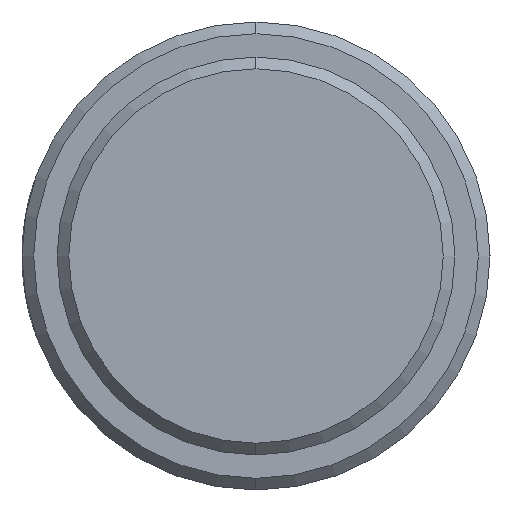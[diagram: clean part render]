
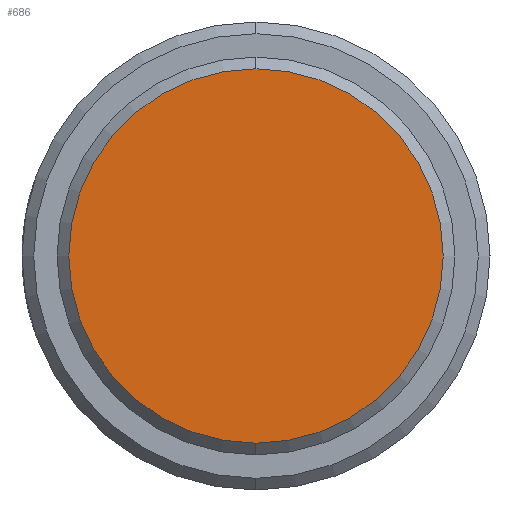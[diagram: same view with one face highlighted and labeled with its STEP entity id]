
A CAD part, left-side view. The second image highlights one B-rep face of the part: STEP entity #686.
In plain terms, the highlighted planar face has unit normal (-1, 0, 0).
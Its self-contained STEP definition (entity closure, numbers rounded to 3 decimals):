
#9 = ORIENTED_EDGE ( 'NONE', *, *, #917, .F. ) ;
#208 = PLANE ( 'NONE',  #231 ) ;
#231 = AXIS2_PLACEMENT_3D ( 'NONE', #597, #747, #283 ) ;
#283 = DIRECTION ( 'NONE',  ( 0., 0., 1. ) ) ;
#431 = AXIS2_PLACEMENT_3D ( 'NONE', #775, #698, #532 ) ;
#437 = CIRCLE ( 'NONE', #614, 8. ) ;
#474 = EDGE_CURVE ( 'NONE', #533, #755, #437, .T. ) ;
#532 = DIRECTION ( 'NONE',  ( 0., 0., -1. ) ) ;
#533 = VERTEX_POINT ( 'NONE', #774 ) ;
#597 = CARTESIAN_POINT ( 'NONE',  ( 17.066, -19.138, 7.545 ) ) ;
#614 = AXIS2_PLACEMENT_3D ( 'NONE', #657, #842, #757 ) ;
#657 = CARTESIAN_POINT ( 'NONE',  ( 17.066, -19.138, 7.545 ) ) ;
#686 = ADVANCED_FACE ( 'NONE', ( #901 ), #208, .T. ) ;
#687 = EDGE_LOOP ( 'NONE', ( #9, #840 ) ) ;
#698 = DIRECTION ( 'NONE',  ( 1., 0., 0. ) ) ;
#747 = DIRECTION ( 'NONE',  ( -1., 0., 0. ) ) ;
#755 = VERTEX_POINT ( 'NONE', #936 ) ;
#757 = DIRECTION ( 'NONE',  ( 0., 0., -1. ) ) ;
#774 = CARTESIAN_POINT ( 'NONE',  ( 17.066, -19.138, 15.545 ) ) ;
#775 = CARTESIAN_POINT ( 'NONE',  ( 17.066, -19.138, 7.545 ) ) ;
#795 = CIRCLE ( 'NONE', #431, 8. ) ;
#840 = ORIENTED_EDGE ( 'NONE', *, *, #474, .F. ) ;
#842 = DIRECTION ( 'NONE',  ( 1., 0., 0. ) ) ;
#901 = FACE_OUTER_BOUND ( 'NONE', #687, .T. ) ;
#917 = EDGE_CURVE ( 'NONE', #755, #533, #795, .T. ) ;
#936 = CARTESIAN_POINT ( 'NONE',  ( 17.066, -19.138, -0.455 ) ) ;
